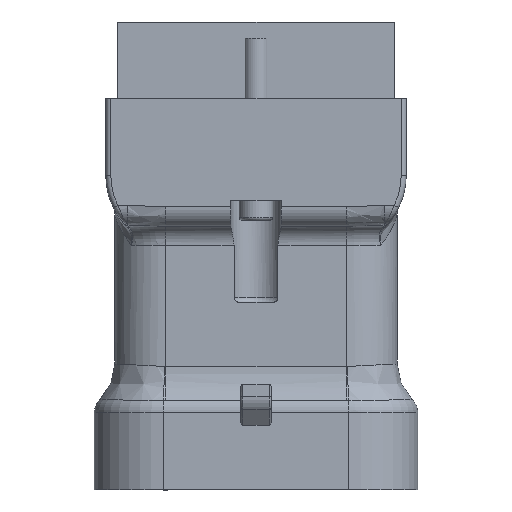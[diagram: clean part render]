
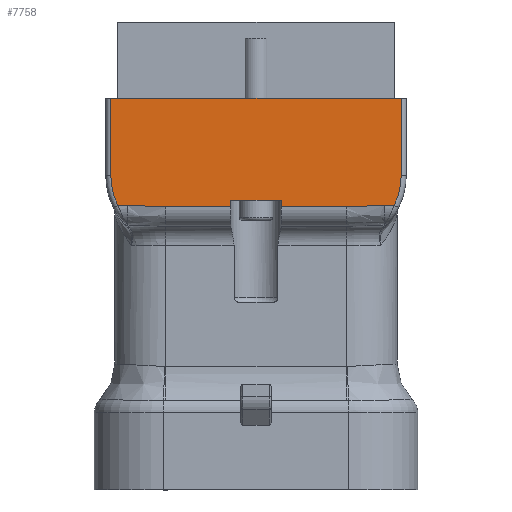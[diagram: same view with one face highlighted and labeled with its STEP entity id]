
A CAD part, top view. The second image highlights one B-rep face of the part: STEP entity #7758.
In plain terms, the highlighted planar face has unit normal (0, 0, 1).
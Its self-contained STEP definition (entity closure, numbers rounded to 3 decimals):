
#781 = CARTESIAN_POINT ( 'NONE',  ( 14.5, 12.7, 8. ) ) ;
#782 = DIRECTION ( 'NONE',  ( -1., 0., 0. ) ) ;
#783 = VECTOR ( 'NONE', #782, 1000. ) ;
#784 = CARTESIAN_POINT ( 'NONE',  ( 15., 12.7, 8. ) ) ;
#785 = LINE ( 'NONE', #784, #783 ) ;
#948 = CARTESIAN_POINT ( 'NONE',  ( -14.5, 12.7, 8. ) ) ;
#967 = B_SPLINE_CURVE_WITH_KNOTS ( 'NONE', 3,
 ( #1499, #1498, #1497, #1496, #1495, #1494 ),
 .UNSPECIFIED., .F., .F.,
 ( 4, 2, 4 ),
 ( 0., 0.002, 0.004 ),
 .UNSPECIFIED. ) ;
#1476 = CARTESIAN_POINT ( 'NONE',  ( -12.162, 2., 8. ) ) ;
#1477 = CARTESIAN_POINT ( 'NONE',  ( -12.796, 2., 8. ) ) ;
#1478 = CARTESIAN_POINT ( 'NONE',  ( -9., 1.846, 8. ) ) ;
#1479 = B_SPLINE_CURVE_WITH_KNOTS ( 'NONE', 3,
 ( #1477, #1476, #1536, #1535, #1534, #1533 ),
 .UNSPECIFIED., .F., .F.,
 ( 4, 2, 4 ),
 ( 0., 0.002, 0.004 ),
 .UNSPECIFIED. ) ;
#1480 = DIRECTION ( 'NONE',  ( 0., 1., 0. ) ) ;
#1481 = VECTOR ( 'NONE', #1480, 1000. ) ;
#1482 = CARTESIAN_POINT ( 'NONE',  ( 14.5, 12.7, 8. ) ) ;
#1483 = LINE ( 'NONE', #1482, #1481 ) ;
#1484 = CARTESIAN_POINT ( 'NONE',  ( 14.5, 5., 8. ) ) ;
#1485 = DIRECTION ( 'NONE',  ( 1., 0., 0. ) ) ;
#1486 = DIRECTION ( 'NONE',  ( 0., 0., 1. ) ) ;
#1487 = CARTESIAN_POINT ( 'NONE',  ( 7.75, 5., 8. ) ) ;
#1488 = AXIS2_PLACEMENT_3D ( 'NONE', #1487, #1486, #1485 ) ;
#1489 = CIRCLE ( 'NONE', #1488, 6.75 ) ;
#1490 = CARTESIAN_POINT ( 'NONE',  ( 13.797, 2., 8. ) ) ;
#1491 = DIRECTION ( 'NONE',  ( 1., 0., 0. ) ) ;
#1492 = VECTOR ( 'NONE', #1491, 1000. ) ;
#1493 = CARTESIAN_POINT ( 'NONE',  ( 13., 2., 8. ) ) ;
#1494 = CARTESIAN_POINT ( 'NONE',  ( 12.796, 2., 8. ) ) ;
#1495 = CARTESIAN_POINT ( 'NONE',  ( 12.162, 2., 8. ) ) ;
#1496 = CARTESIAN_POINT ( 'NONE',  ( 11.53, 1.957, 8. ) ) ;
#1497 = CARTESIAN_POINT ( 'NONE',  ( 10.266, 1.879, 8. ) ) ;
#1498 = CARTESIAN_POINT ( 'NONE',  ( 9.634, 1.846, 8. ) ) ;
#1499 = CARTESIAN_POINT ( 'NONE',  ( 9., 1.846, 8. ) ) ;
#1500 = LINE ( 'NONE', #1493, #1492 ) ;
#1501 = CARTESIAN_POINT ( 'NONE',  ( 12.796, 2., 8. ) ) ;
#1502 = CARTESIAN_POINT ( 'NONE',  ( -14.5, 5., 8. ) ) ;
#1503 = LINE ( 'NONE', #1502, #1568 ) ;
#1504 = DIRECTION ( 'NONE',  ( 1., 0., 0. ) ) ;
#1505 = DIRECTION ( 'NONE',  ( 0., 0., 1. ) ) ;
#1506 = CARTESIAN_POINT ( 'NONE',  ( -7.75, 5., 8. ) ) ;
#1507 = AXIS2_PLACEMENT_3D ( 'NONE', #1506, #1505, #1504 ) ;
#1508 = PLANE ( 'NONE',  #1507 ) ;
#1509 = FACE_OUTER_BOUND ( 'NONE', #7759, .T. ) ;
#1514 = DIRECTION ( 'NONE',  ( 0., 1., 0. ) ) ;
#1515 = VECTOR ( 'NONE', #1514, 1000. ) ;
#1516 = CARTESIAN_POINT ( 'NONE',  ( 2.5, 5., 8. ) ) ;
#1517 = LINE ( 'NONE', #1516, #1515 ) ;
#1518 = CARTESIAN_POINT ( 'NONE',  ( 2.5, 2.5, 8. ) ) ;
#1519 = DIRECTION ( 'NONE',  ( 1., 0., 0. ) ) ;
#1520 = VECTOR ( 'NONE', #1519, 1000. ) ;
#1521 = CARTESIAN_POINT ( 'NONE',  ( -7.75, 2.5, 8. ) ) ;
#1522 = LINE ( 'NONE', #1521, #1520 ) ;
#1523 = CARTESIAN_POINT ( 'NONE',  ( -2.5, 2.5, 8. ) ) ;
#1524 = DIRECTION ( 'NONE',  ( 0., -1., 0. ) ) ;
#1525 = VECTOR ( 'NONE', #1524, 1000. ) ;
#1526 = CARTESIAN_POINT ( 'NONE',  ( -2.5, 5., 8. ) ) ;
#1527 = LINE ( 'NONE', #1526, #1525 ) ;
#1528 = CARTESIAN_POINT ( 'NONE',  ( -2.5, 1.846, 8. ) ) ;
#1529 = DIRECTION ( 'NONE',  ( 1., 0., 0. ) ) ;
#1530 = VECTOR ( 'NONE', #1529, 1000. ) ;
#1531 = CARTESIAN_POINT ( 'NONE',  ( -2.5, 1.846, 8. ) ) ;
#1532 = LINE ( 'NONE', #1531, #1530 ) ;
#1533 = CARTESIAN_POINT ( 'NONE',  ( -9., 1.846, 8. ) ) ;
#1534 = CARTESIAN_POINT ( 'NONE',  ( -9.634, 1.846, 8. ) ) ;
#1535 = CARTESIAN_POINT ( 'NONE',  ( -10.266, 1.879, 8. ) ) ;
#1536 = CARTESIAN_POINT ( 'NONE',  ( -11.53, 1.957, 8. ) ) ;
#1555 = CARTESIAN_POINT ( 'NONE',  ( -12.796, 2., 8. ) ) ;
#1556 = DIRECTION ( 'NONE',  ( 1., 0., 0. ) ) ;
#1557 = VECTOR ( 'NONE', #1556, 1000. ) ;
#1558 = CARTESIAN_POINT ( 'NONE',  ( -2.5, 2., 8. ) ) ;
#1559 = LINE ( 'NONE', #1558, #1557 ) ;
#1560 = CARTESIAN_POINT ( 'NONE',  ( -13.797, 2., 8. ) ) ;
#1561 = DIRECTION ( 'NONE',  ( 1., 0., 0. ) ) ;
#1562 = DIRECTION ( 'NONE',  ( 0., 0., 1. ) ) ;
#1563 = CARTESIAN_POINT ( 'NONE',  ( -7.75, 5., 8. ) ) ;
#1564 = AXIS2_PLACEMENT_3D ( 'NONE', #1563, #1562, #1561 ) ;
#1565 = CIRCLE ( 'NONE', #1564, 6.75 ) ;
#1566 = CARTESIAN_POINT ( 'NONE',  ( -14.5, 5., 8. ) ) ;
#1567 = DIRECTION ( 'NONE',  ( 0., -1., 0. ) ) ;
#1568 = VECTOR ( 'NONE', #1567, 1000. ) ;
#1611 = CARTESIAN_POINT ( 'NONE',  ( 9., 1.846, 8. ) ) ;
#1612 = DIRECTION ( 'NONE',  ( 1., 0., 0. ) ) ;
#1613 = VECTOR ( 'NONE', #1612, 1000. ) ;
#1614 = CARTESIAN_POINT ( 'NONE',  ( 13., 1.846, 8. ) ) ;
#1615 = LINE ( 'NONE', #1614, #1613 ) ;
#1616 = CARTESIAN_POINT ( 'NONE',  ( 2.5, 1.846, 8. ) ) ;
#7393 = EDGE_CURVE ( 'NONE', #7394, #7474, #785, .T. ) ;
#7394 = VERTEX_POINT ( 'NONE', #781 ) ;
#7474 = VERTEX_POINT ( 'NONE', #948 ) ;
#7731 = EDGE_CURVE ( 'NONE', #7814, #7732, #967, .T. ) ;
#7732 = VERTEX_POINT ( 'NONE', #1501 ) ;
#7733 = ORIENTED_EDGE ( 'NONE', *, *, #7734, .T. ) ;
#7734 = EDGE_CURVE ( 'NONE', #7732, #7735, #1500, .T. ) ;
#7735 = VERTEX_POINT ( 'NONE', #1490 ) ;
#7736 = ORIENTED_EDGE ( 'NONE', *, *, #7737, .T. ) ;
#7737 = EDGE_CURVE ( 'NONE', #7735, #7738, #1489, .T. ) ;
#7738 = VERTEX_POINT ( 'NONE', #1484 ) ;
#7739 = ORIENTED_EDGE ( 'NONE', *, *, #7740, .T. ) ;
#7740 = EDGE_CURVE ( 'NONE', #7738, #7394, #1483, .T. ) ;
#7741 = ORIENTED_EDGE ( 'NONE', *, *, #7742, .T. ) ;
#7742 = EDGE_CURVE ( 'NONE', #7768, #7743, #1479, .T. ) ;
#7743 = VERTEX_POINT ( 'NONE', #1478 ) ;
#7744 = ORIENTED_EDGE ( 'NONE', *, *, #7745, .T. ) ;
#7745 = EDGE_CURVE ( 'NONE', #7743, #7746, #1532, .T. ) ;
#7746 = VERTEX_POINT ( 'NONE', #1528 ) ;
#7747 = ORIENTED_EDGE ( 'NONE', *, *, #7748, .F. ) ;
#7748 = EDGE_CURVE ( 'NONE', #7749, #7746, #1527, .T. ) ;
#7749 = VERTEX_POINT ( 'NONE', #1523 ) ;
#7750 = ORIENTED_EDGE ( 'NONE', *, *, #7751, .T. ) ;
#7751 = EDGE_CURVE ( 'NONE', #7749, #7752, #1522, .T. ) ;
#7752 = VERTEX_POINT ( 'NONE', #1518 ) ;
#7753 = ORIENTED_EDGE ( 'NONE', *, *, #7754, .F. ) ;
#7754 = EDGE_CURVE ( 'NONE', #7811, #7752, #1517, .T. ) ;
#7758 = ADVANCED_FACE ( 'NONE', ( #1509 ), #1508, .T. ) ;
#7759 = EDGE_LOOP ( 'NONE', ( #7760, #7763, #7766, #7741, #7744, #7747, #7750, #7753, #7812, #7815, #7733, #7736, #7739, #7799 ) ) ;
#7760 = ORIENTED_EDGE ( 'NONE', *, *, #7761, .T. ) ;
#7761 = EDGE_CURVE ( 'NONE', #7474, #7762, #1503, .T. ) ;
#7762 = VERTEX_POINT ( 'NONE', #1566 ) ;
#7763 = ORIENTED_EDGE ( 'NONE', *, *, #7764, .T. ) ;
#7764 = EDGE_CURVE ( 'NONE', #7762, #7765, #1565, .T. ) ;
#7765 = VERTEX_POINT ( 'NONE', #1560 ) ;
#7766 = ORIENTED_EDGE ( 'NONE', *, *, #7767, .T. ) ;
#7767 = EDGE_CURVE ( 'NONE', #7765, #7768, #1559, .T. ) ;
#7768 = VERTEX_POINT ( 'NONE', #1555 ) ;
#7799 = ORIENTED_EDGE ( 'NONE', *, *, #7393, .T. ) ;
#7811 = VERTEX_POINT ( 'NONE', #1616 ) ;
#7812 = ORIENTED_EDGE ( 'NONE', *, *, #7813, .T. ) ;
#7813 = EDGE_CURVE ( 'NONE', #7811, #7814, #1615, .T. ) ;
#7814 = VERTEX_POINT ( 'NONE', #1611 ) ;
#7815 = ORIENTED_EDGE ( 'NONE', *, *, #7731, .T. ) ;
